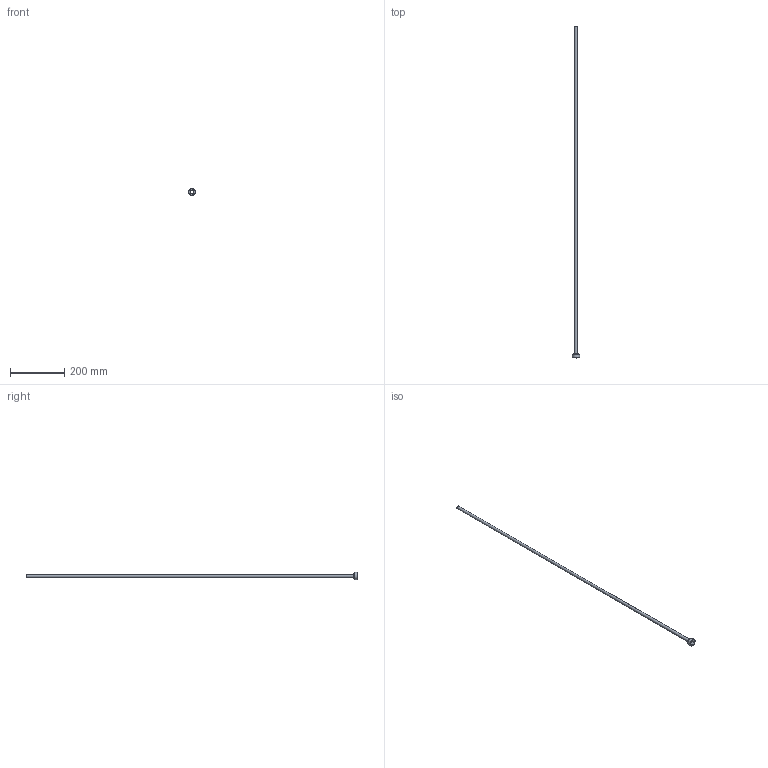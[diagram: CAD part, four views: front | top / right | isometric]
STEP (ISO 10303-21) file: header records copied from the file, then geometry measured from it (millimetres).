
FILE_DESCRIPTION(/* description */ (''),/* implementation_level */ '2;1');
FILE_NAME(/* name */ 'C:/Users/drich/Desktop/PT34-437-48 v1.step',/* time_stamp */ '2019-12-27T15:47:44-06:00',/* author */ (''),/* organization */ (''),/* preprocessor_version */ 'ST-DEVELOPER v18',/* originating_system */ 'Autodesk Translation Framework v8.12.0.6',/* authorisation */ '');
FILE_SCHEMA (('AUTOMOTIVE_DESIGN { 1 0 10303 214 3 1 1 }'));
Length unit declared in the file: inch
Products named in the file (1): PT34-437-48
Bounding box: 26.3 x 1219.2 x 26.3 mm (x, y, z)
Volume: 20171.2 mm3; surface area: 81840.7 mm2
Topology: 1 solids, 1 shells, 19 faces, 48 edges, 34 vertices
Faces by surface type: plane 11, cylinder 4, torus 2, cone 2
Full cylindrical faces by diameter (mm): 10.084 x1, 10.82 x1, 19.05 x1, 26.299 x1
Entity records: 633 total; most frequent: DIRECTION 112, CARTESIAN_POINT 102, ORIENTED_EDGE 96, EDGE_CURVE 48, AXIS2_PLACEMENT_3D 44, VERTEX_POINT 34, CIRCLE 24, EDGE_LOOP 24
